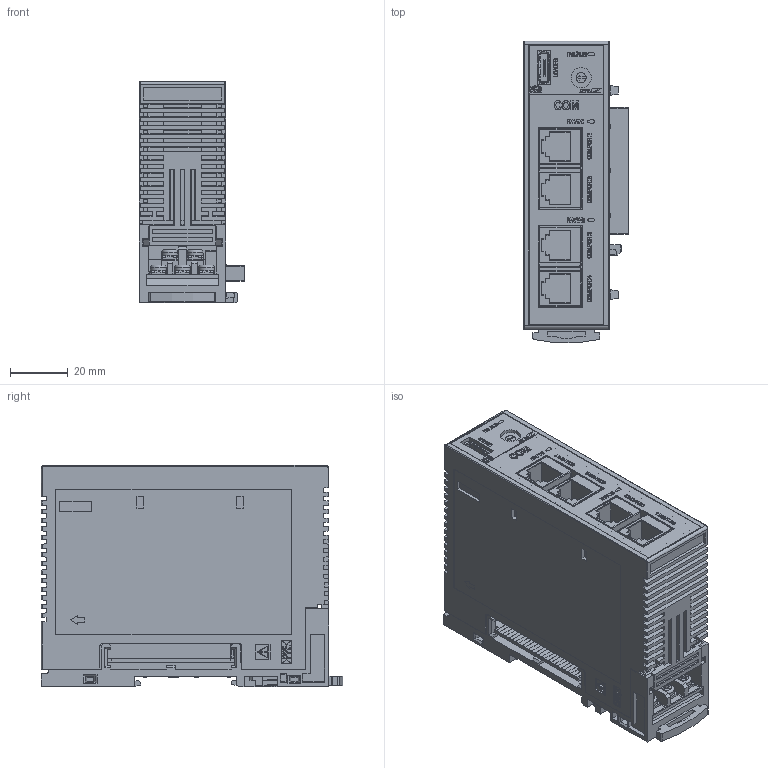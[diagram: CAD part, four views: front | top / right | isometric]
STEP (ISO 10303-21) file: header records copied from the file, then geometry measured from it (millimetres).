
FILE_DESCRIPTION (( 'STEP AP203' ), '1' );
FILE_NAME ('SRZ(Z-COM-A)_WEB.STEP', '2015-03-23T02:59:07', ( '' ), ( '' ), 'SwSTEP 2.0', 'SolidWorks 2014', '' );
FILE_SCHEMA (( 'CONFIG_CONTROL_DESIGN' ));
Products named in the file (3): SRZ(基本設計-COM); KSRZ-54(1)_WEB; SRZ(Z-COM-A)_WEB
Assembly tree (2 placements, depth 2):
  SRZ(Z-COM-A)_WEB
    SRZ(基本設計-COM)
    KSRZ-54(1)_WEB
Bounding box: 36.65 x 104.76 x 76.85 mm (x, y, z)
Volume: 159521.4 mm3; surface area: 65037.5 mm2
Topology: 12 solids, 12 shells, 4396 faces, 11610 edges, 7456 vertices
Faces by surface type: plane 3107, cylinder 659, bspline 508, torus 66, sphere 52, cone 4
Entity records: 147275 total; most frequent: CARTESIAN_POINT 41899, ORIENTED_EDGE 23116, DIRECTION 19208, EDGE_CURVE 11558, VECTOR 9138, LINE 9138, VERTEX_POINT 7456, AXIS2_PLACEMENT_3D 5035
